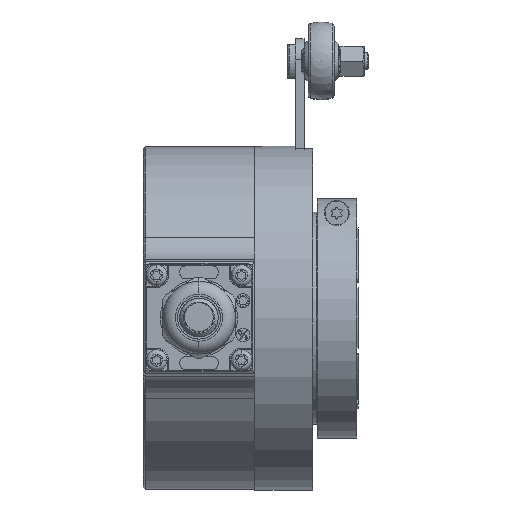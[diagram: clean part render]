
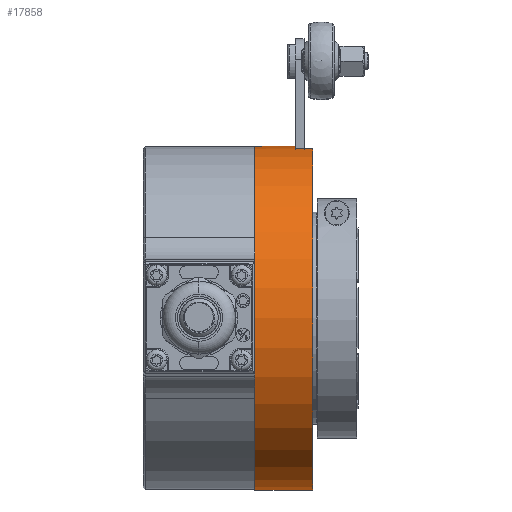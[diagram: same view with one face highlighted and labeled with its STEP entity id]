
A CAD part, top view. The second image highlights one B-rep face of the part: STEP entity #17858.
In plain terms, the highlighted cylindrical face has radius 40.075 mm (diameter 80.15 mm), a partial arc.
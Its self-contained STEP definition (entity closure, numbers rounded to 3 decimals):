
#285 = CARTESIAN_POINT ( 'NONE',  ( -12.775, 0., 0. ) ) ;
#1172 = DIRECTION ( 'NONE',  ( 0., 1., 0. ) ) ;
#1380 = ORIENTED_EDGE ( 'NONE', *, *, #26276, .T. ) ;
#2307 = VERTEX_POINT ( 'NONE', #7400 ) ;
#3051 = FACE_OUTER_BOUND ( 'NONE', #15427, .T. ) ;
#3524 = DIRECTION ( 'NONE',  ( 0., 1., 0. ) ) ;
#3946 = LINE ( 'NONE', #20596, #24627 ) ;
#4271 = DIRECTION ( 'NONE',  ( -1., 0., 0. ) ) ;
#4874 = CYLINDRICAL_SURFACE ( 'NONE', #11583, 40.075 ) ;
#5160 = ORIENTED_EDGE ( 'NONE', *, *, #16564, .T. ) ;
#5514 = ORIENTED_EDGE ( 'NONE', *, *, #6222, .F. ) ;
#5708 = CARTESIAN_POINT ( 'NONE',  ( 0., 40.075, 0. ) ) ;
#5921 = CARTESIAN_POINT ( 'NONE',  ( 13.5, -40.075, 0. ) ) ;
#6222 = EDGE_CURVE ( 'NONE', #27188, #21572, #16761, .T. ) ;
#6600 = AXIS2_PLACEMENT_3D ( 'NONE', #7940, #27381, #1172 ) ;
#6768 = CARTESIAN_POINT ( 'NONE',  ( 0., -40.075, 0. ) ) ;
#7400 = CARTESIAN_POINT ( 'NONE',  ( 9.5, 40.075, 0. ) ) ;
#7940 = CARTESIAN_POINT ( 'NONE',  ( 13.5, 0., 0. ) ) ;
#8738 = CARTESIAN_POINT ( 'NONE',  ( 9.5, 0., 0. ) ) ;
#9260 = AXIS2_PLACEMENT_3D ( 'NONE', #8738, #20026, #3524 ) ;
#11135 = LINE ( 'NONE', #20695, #15405 ) ;
#11583 = AXIS2_PLACEMENT_3D ( 'NONE', #285, #14294, #21706 ) ;
#12064 = CIRCLE ( 'NONE', #6600, 40.075 ) ;
#12798 = VERTEX_POINT ( 'NONE', #17065 ) ;
#13359 = VERTEX_POINT ( 'NONE', #26108 ) ;
#13402 = DIRECTION ( 'NONE',  ( -1., 0., 0. ) ) ;
#13693 = LINE ( 'NONE', #29875, #29250 ) ;
#14294 = DIRECTION ( 'NONE',  ( -1., 0., 0. ) ) ;
#15353 = EDGE_CURVE ( 'NONE', #28262, #12798, #12064, .T. ) ;
#15405 = VECTOR ( 'NONE', #18377, 1000. ) ;
#15427 = EDGE_LOOP ( 'NONE', ( #23199, #18178, #29222, #1380, #5160, #5514 ) ) ;
#15855 = EDGE_CURVE ( 'NONE', #28262, #27188, #11135, .T. ) ;
#16564 = EDGE_CURVE ( 'NONE', #2307, #21572, #13693, .T. ) ;
#16761 = CIRCLE ( 'NONE', #19231, 40.075 ) ;
#17065 = CARTESIAN_POINT ( 'NONE',  ( 13.5, 39.468, 6.95 ) ) ;
#17858 = ADVANCED_FACE ( 'NONE', ( #3051 ), #4874, .T. ) ;
#18178 = ORIENTED_EDGE ( 'NONE', *, *, #15353, .T. ) ;
#18377 = DIRECTION ( 'NONE',  ( -1., 0., 0. ) ) ;
#19231 = AXIS2_PLACEMENT_3D ( 'NONE', #22485, #13402, #20322 ) ;
#20026 = DIRECTION ( 'NONE',  ( -1., 0., 0. ) ) ;
#20322 = DIRECTION ( 'NONE',  ( 0., 1., 0. ) ) ;
#20596 = CARTESIAN_POINT ( 'NONE',  ( -12.775, 39.468, 6.95 ) ) ;
#20695 = CARTESIAN_POINT ( 'NONE',  ( -12.775, -40.075, 0. ) ) ;
#21572 = VERTEX_POINT ( 'NONE', #5708 ) ;
#21706 = DIRECTION ( 'NONE',  ( 0., 1., 0. ) ) ;
#22057 = CIRCLE ( 'NONE', #9260, 40.075 ) ;
#22485 = CARTESIAN_POINT ( 'NONE',  ( 0., 0., 0. ) ) ;
#23199 = ORIENTED_EDGE ( 'NONE', *, *, #15855, .F. ) ;
#24627 = VECTOR ( 'NONE', #27101, 1000. ) ;
#26108 = CARTESIAN_POINT ( 'NONE',  ( 9.5, 39.468, 6.95 ) ) ;
#26276 = EDGE_CURVE ( 'NONE', #13359, #2307, #22057, .T. ) ;
#27101 = DIRECTION ( 'NONE',  ( -1., 0., 0. ) ) ;
#27188 = VERTEX_POINT ( 'NONE', #6768 ) ;
#27381 = DIRECTION ( 'NONE',  ( -1., 0., 0. ) ) ;
#28028 = EDGE_CURVE ( 'NONE', #12798, #13359, #3946, .T. ) ;
#28262 = VERTEX_POINT ( 'NONE', #5921 ) ;
#29222 = ORIENTED_EDGE ( 'NONE', *, *, #28028, .T. ) ;
#29250 = VECTOR ( 'NONE', #4271, 1000. ) ;
#29875 = CARTESIAN_POINT ( 'NONE',  ( -12.775, 40.075, 0. ) ) ;
